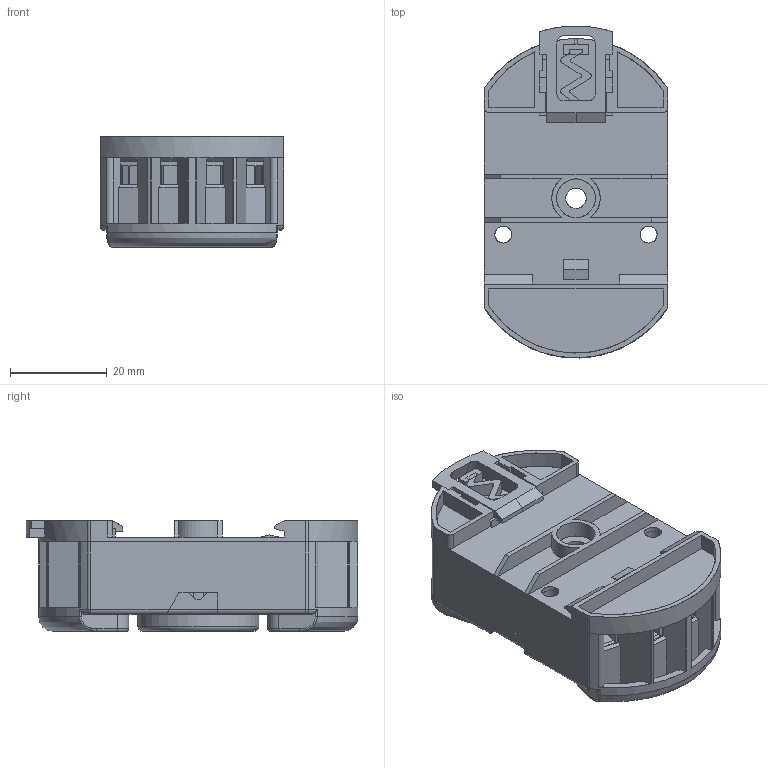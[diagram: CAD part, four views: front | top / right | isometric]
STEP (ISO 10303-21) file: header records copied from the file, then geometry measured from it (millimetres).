
FILE_DESCRIPTION(('STEP AP214'),'2;1');
FILE_NAME('9022 Octal.stp','2010-12-07T09:25:08',(''),(''),'2007.1.106','THINKDESIGN','');
FILE_SCHEMA(('AUTOMOTIVE_DESIGN'));
Products named in the file (1): None
Bounding box: 38 x 68.6 x 22.9 mm (x, y, z)
Surface area: 20793 mm2 (no closed solid volume)
Topology: 0 solids, 0 shells, 1040 faces, 6770 edges, 6717 vertices
Faces by surface type: plane 747, cylinder 201, bspline 92
Full cylindrical faces by diameter (mm): 1.3 x1, 1.5 x1, 3 x8, 3.5 x4, 4.2 x10, 5.5 x2, 8 x1, 8.2 x1, 25 x1
Entity records: 69204 total; most frequent: CARTESIAN_POINT 23600, DIRECTION 7988, COMPOSITE_CURVE_SEGMENT 6766, TRIMMED_CURVE 5576, VECTOR 5140, LINE 5140, AXIS2_PLACEMENT_3D 1424, OUTER_BOUNDARY_CURVE 1040
